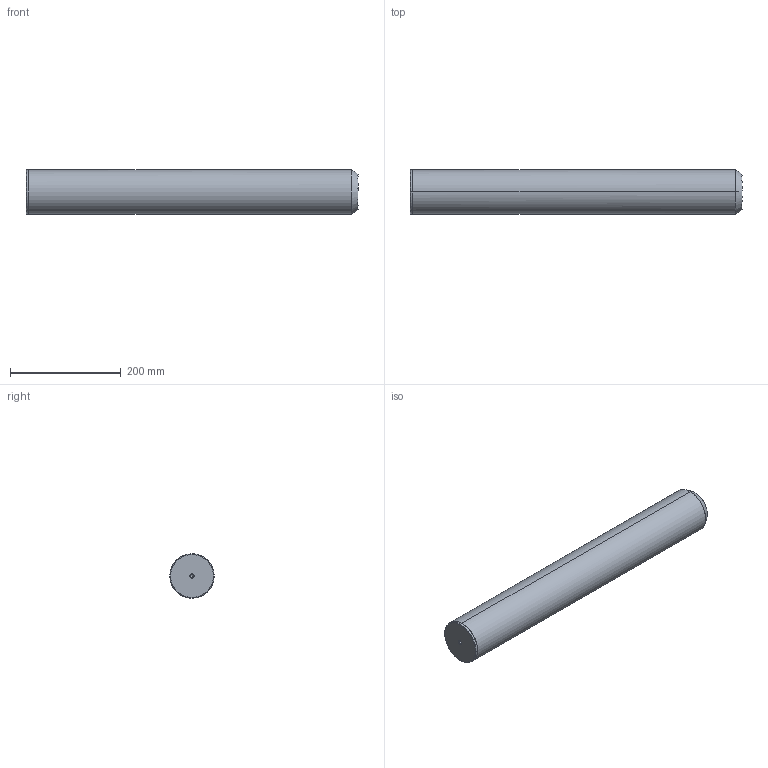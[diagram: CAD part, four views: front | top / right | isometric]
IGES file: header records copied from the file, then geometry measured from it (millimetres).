
Start section: START RECORD GO HERE.
Global section: file name: 720-80x600.igs; native system: DASSAULT SYSTEMES CATIA V5 R20 - www.3ds.com; preprocessor: CATIA Version 5 Release 20 ; author: Utente; organization: NB04-ASUS; date: 20201230.221819; units: millimetre
Bounding box: 600 x 80 x 80 mm (x, y, z)
Surface area: 159934.2 mm2 (no closed solid volume)
Topology: 0 solids, 0 shells, 26 faces, 160 edges, 156 vertices
Faces by surface type: revolution 20, plane 4, bspline 2
